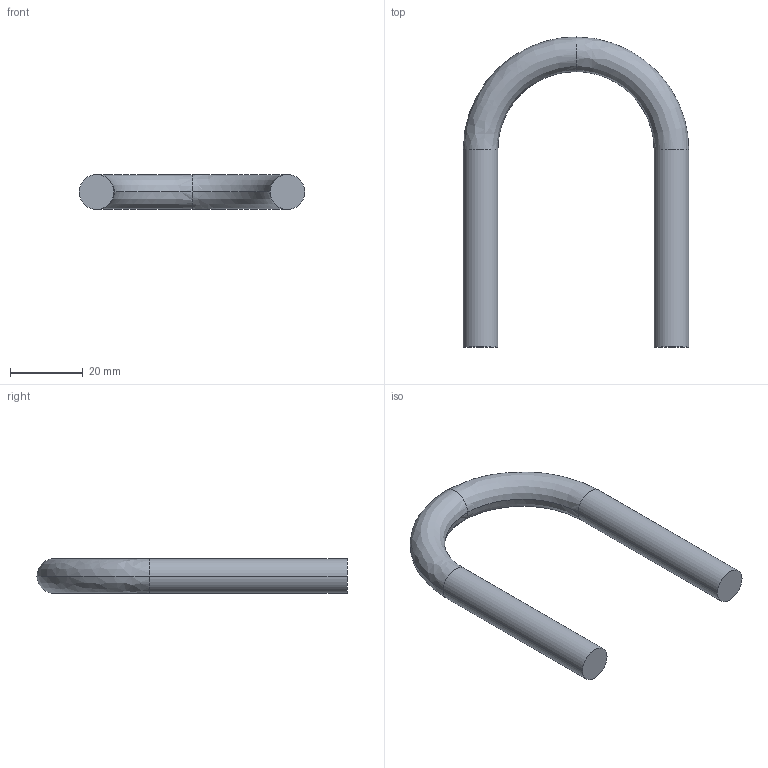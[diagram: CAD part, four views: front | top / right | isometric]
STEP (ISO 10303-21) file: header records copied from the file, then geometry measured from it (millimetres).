
FILE_DESCRIPTION(('TurboCAD Mac Pro'),'Build 980');
FILE_NAME('FUB-125.stp',' ',(''),(''),'ACIS Interop','IMSI','TurboCAD Mac Pro BY IMSI, INCORPORATED');
FILE_SCHEMA(('automotive_design'));
Length unit declared in the file: inch
Products named in the file (1): 1
Bounding box: 61.9 x 85.08 x 9.53 mm (x, y, z)
Volume: 13566.6 mm3; surface area: 5842.2 mm2
Topology: 1 solids, 1 shells, 10 faces, 18 edges, 10 vertices
Faces by surface type: bspline 4, cylinder 4, plane 2
Entity records: 608 total; most frequent: CARTESIAN_POINT 319, DIRECTION 38, ORIENTED_EDGE 36, EDGE_CURVE 18, AXIS2_PLACEMENT_3D 17, STYLED_ITEM 11, PRESENTATION_STYLE_ASSIGNMENT 11, SURFACE_STYLE_USAGE 11
